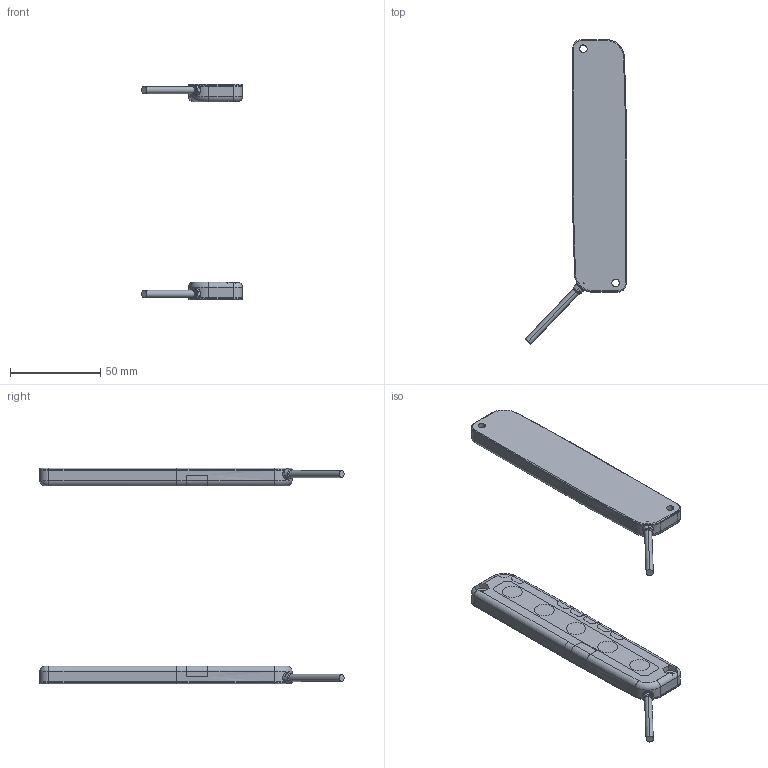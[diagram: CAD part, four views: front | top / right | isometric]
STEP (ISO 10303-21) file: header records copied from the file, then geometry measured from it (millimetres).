
FILE_DESCRIPTION (( 'STEP AP214' ), '1' );
FILE_NAME ('BWPK25-05_BWPK25-05P.STEP', '2019-06-17T23:30:27', ( '' ), ( '' ), 'SwSTEP 2.0', 'SolidWorks 2018', '' );
FILE_SCHEMA (( 'AUTOMOTIVE_DESIGN' ));
Length unit declared in the file: millimetre
Products named in the file (1): BWPK25-05_BWPK25-05P
Bounding box: 56.1 x 168.93 x 119.8 mm (x, y, z)
Volume: 79623.5 mm3; surface area: 23600.3 mm2
Topology: 2 solids, 4 shells, 276 faces, 736 edges, 484 vertices
Faces by surface type: plane 130, cylinder 94, torus 48, cone 4
Entity records: 10465 total; most frequent: CARTESIAN_POINT 2077, DIRECTION 1548, ORIENTED_EDGE 1472, EDGE_CURVE 736, AXIS2_PLACEMENT_3D 597, VERTEX_POINT 484, LINE 354, VECTOR 354
